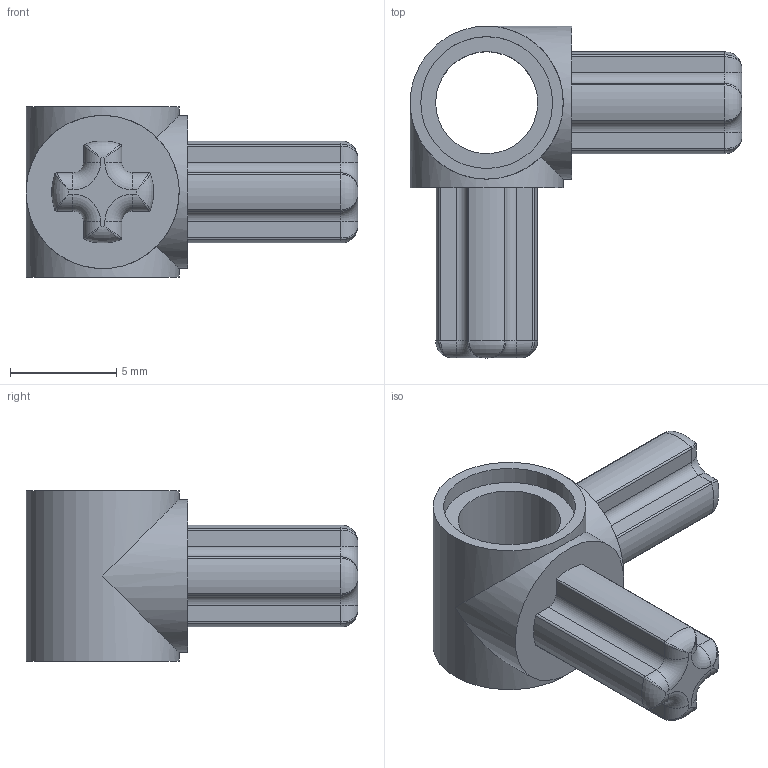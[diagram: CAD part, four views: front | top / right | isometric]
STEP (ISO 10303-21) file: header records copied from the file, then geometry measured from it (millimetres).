
FILE_DESCRIPTION(/* description */ ('Unknown'),/* implementation_level */ '2;1');
FILE_NAME(/* name */ 'Gray_6005331_JCA',/* time_stamp */ '2025-07-22T00:01:51+02:00',/* author */ ('Unknown'),/* organization */ ('Unknown'),/* preprocessor_version */ 'ST-DEVELOPER v19.4',/* originating_system */ 'Solid Edge',/* authorisation */ 'Unknown');
FILE_SCHEMA (('AUTOMOTIVE_DESIGN {1 0 10303 214 3 1 1}'));
Length unit declared in the file: millimetre
Products named in the file (1): Gray_6005331_JCA
Bounding box: 15.6 x 15.6 x 8 mm (x, y, z)
Volume: 447.9 mm3; surface area: 662 mm2
Topology: 1 solids, 1 shells, 110 faces, 265 edges, 145 vertices
Faces by surface type: cylinder 54, plane 24, torus 16, bspline 16
Full cylindrical faces by diameter (mm): 4.8 x1, 6.2 x2, 7.2 x3
Entity records: 3236 total; most frequent: CARTESIAN_POINT 844, DIRECTION 508, ORIENTED_EDGE 478, EDGE_CURVE 239, AXIS2_PLACEMENT_3D 206, VERTEX_POINT 142, EDGE_LOOP 123, FACE_BOUND 123
